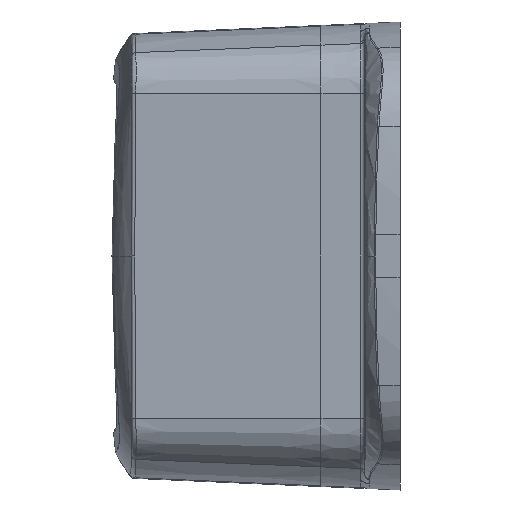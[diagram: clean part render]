
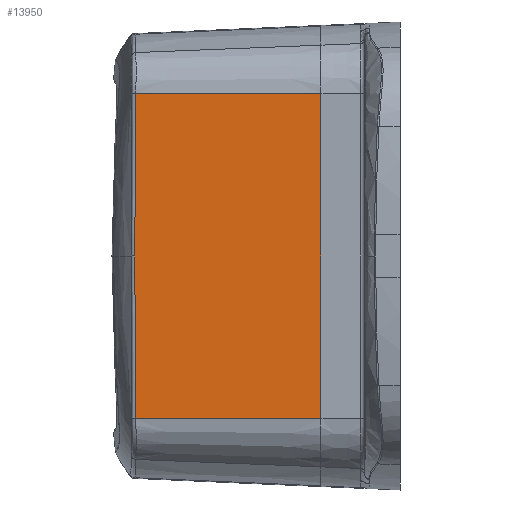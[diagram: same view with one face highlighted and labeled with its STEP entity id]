
A CAD part, left-side view. The second image highlights one B-rep face of the part: STEP entity #13950.
In plain terms, the highlighted planar face has unit normal (-0.999, 0.044, 0).
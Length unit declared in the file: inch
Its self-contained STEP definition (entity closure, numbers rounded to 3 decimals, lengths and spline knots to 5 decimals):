
#124 = VECTOR ( 'NONE', #23147, 39.37008 ) ;
#295 = CARTESIAN_POINT ( 'NONE',  ( -1.26638, 1.05627, -0.77062 ) ) ;
#3566 = DIRECTION ( 'NONE',  ( -0.999, 0.044, 0. ) ) ;
#4493 = CARTESIAN_POINT ( 'NONE',  ( -1.26623, 1.05976, 0.30826 ) ) ;
#4806 = CARTESIAN_POINT ( 'NONE',  ( -1.26643, 1.05528, 0.85732 ) ) ;
#6927 = LINE ( 'NONE', #89177, #124 ) ;
#7915 = CARTESIAN_POINT ( 'NONE',  ( -1.26621, 1.06011, -0.15413 ) ) ;
#9294 = DIRECTION ( 'NONE',  ( -0.044, -0.999, 0. ) ) ;
#12089 = CARTESIAN_POINT ( 'NONE',  ( -1.26641, 1.05562, 0.82842 ) ) ;
#13950 = ADVANCED_FACE ( 'NONE', ( #74717 ), #61634, .T. ) ;
#14887 = CARTESIAN_POINT ( 'NONE',  ( -1.26629, 1.05836, -0.53944 ) ) ;
#15086 = VERTEX_POINT ( 'NONE', #87885 ) ;
#15198 = CARTESIAN_POINT ( 'NONE',  ( -1.26644, 1.05492, -0.88621 ) ) ;
#17820 = VERTEX_POINT ( 'NONE', #88177 ) ;
#18747 = CARTESIAN_POINT ( 'NONE',  ( -1.26636, 1.05667, 0.73209 ) ) ;
#22159 = CARTESIAN_POINT ( 'NONE',  ( -1.26636, 1.05667, -0.73209 ) ) ;
#23147 = DIRECTION ( 'NONE',  ( -0.044, -0.999, 0. ) ) ;
#24186 = CARTESIAN_POINT ( 'NONE',  ( -1.3125, 0., -0.92474 ) ) ;
#26040 = VERTEX_POINT ( 'NONE', #57746 ) ;
#26044 = CARTESIAN_POINT ( 'NONE',  ( -1.26629, 1.05836, 0.53944 ) ) ;
#26648 = CARTESIAN_POINT ( 'NONE',  ( -1.26638, 1.05627, 0.77062 ) ) ;
#26661 = ORIENTED_EDGE ( 'NONE', *, *, #85090, .T. ) ;
#28301 = VERTEX_POINT ( 'NONE', #92916 ) ;
#28545 = CARTESIAN_POINT ( 'NONE',  ( -1.26621, 1.06012, 0. ) ) ;
#28816 = CARTESIAN_POINT ( 'NONE',  ( -1.26645, 1.05467, -0.90548 ) ) ;
#29454 = CARTESIAN_POINT ( 'NONE',  ( -1.26632, 1.05777, -0.6165 ) ) ;
#30062 = CARTESIAN_POINT ( 'NONE',  ( -1.26623, 1.05976, -0.30826 ) ) ;
#32392 = DIRECTION ( 'NONE',  ( -0.044, -0.999, 0. ) ) ;
#32712 = CARTESIAN_POINT ( 'NONE',  ( -1.3125, 0., -0.92474 ) ) ;
#32926 = DIRECTION ( 'NONE',  ( 0., 0., 1. ) ) ;
#34003 = ORIENTED_EDGE ( 'NONE', *, *, #85624, .T. ) ;
#35859 = CARTESIAN_POINT ( 'NONE',  ( -1.26621, 1.06011, 0.15413 ) ) ;
#40217 = ORIENTED_EDGE ( 'NONE', *, *, #90779, .T. ) ;
#43309 = EDGE_CURVE ( 'NONE', #26040, #28301, #90903, .T. ) ;
#48295 = CARTESIAN_POINT ( 'NONE',  ( -1.26645, 1.05464, 0.91511 ) ) ;
#49248 = CARTESIAN_POINT ( 'NONE',  ( -1.26645, 1.05467, 0.90548 ) ) ;
#49315 = AXIS2_PLACEMENT_3D ( 'NONE', #32712, #3566, #32392 ) ;
#50491 = CARTESIAN_POINT ( 'NONE',  ( -1.26647, 1.05432, -0.92474 ) ) ;
#50806 = CARTESIAN_POINT ( 'NONE',  ( -1.26642, 1.05539, -0.84768 ) ) ;
#52344 = EDGE_LOOP ( 'NONE', ( #34003, #82570, #26661, #40217, #73718 ) ) ;
#54954 = CARTESIAN_POINT ( 'NONE',  ( -1.26644, 1.05492, 0.88621 ) ) ;
#57746 = CARTESIAN_POINT ( 'NONE',  ( -1.26621, 1.06012, 0. ) ) ;
#58075 = CARTESIAN_POINT ( 'NONE',  ( -1.26641, 1.05562, -0.82842 ) ) ;
#59015 = CARTESIAN_POINT ( 'NONE',  ( -1.26645, 1.05464, -0.91511 ) ) ;
#61634 = PLANE ( 'NONE',  #49315 ) ;
#62375 = LINE ( 'NONE', #24186, #89652 ) ;
#65675 = CARTESIAN_POINT ( 'NONE',  ( -1.26621, 1.06012, 0. ) ) ;
#68152 = VERTEX_POINT ( 'NONE', #80855 ) ;
#68519 = CARTESIAN_POINT ( 'NONE',  ( -1.3125, 0., -0.92474 ) ) ;
#73718 = ORIENTED_EDGE ( 'NONE', *, *, #93422, .F. ) ;
#74717 = FACE_OUTER_BOUND ( 'NONE', #52344, .T. ) ;
#79596 = B_SPLINE_CURVE_WITH_KNOTS ( 'NONE', 3,
 ( #92702, #48295, #49248, #54954, #4806, #12089, #26648, #18747, #91469, #26044, #4493, #35859, #28545 ),
 .UNSPECIFIED., .F., .F.,
 ( 4, 2, 1, 2, 2, 2, 4 ),
 ( 0., 0.00073, 0.00147, 0.00294, 0.00587, 0.01174, 0.02349 ),
 .UNSPECIFIED. ) ;
#80855 = CARTESIAN_POINT ( 'NONE',  ( -1.26647, 1.05432, 0.92474 ) ) ;
#82570 = ORIENTED_EDGE ( 'NONE', *, *, #43309, .T. ) ;
#85090 = EDGE_CURVE ( 'NONE', #28301, #17820, #62375, .T. ) ;
#85624 = EDGE_CURVE ( 'NONE', #68152, #26040, #79596, .T. ) ;
#86844 = VECTOR ( 'NONE', #32926, 39.37008 ) ;
#87628 = CARTESIAN_POINT ( 'NONE',  ( -1.26644, 1.05504, -0.87658 ) ) ;
#87885 = CARTESIAN_POINT ( 'NONE',  ( -1.3125, 0., 0.92474 ) ) ;
#88177 = CARTESIAN_POINT ( 'NONE',  ( -1.3125, 0., -0.92474 ) ) ;
#89177 = CARTESIAN_POINT ( 'NONE',  ( -1.3125, 0., 0.92474 ) ) ;
#89652 = VECTOR ( 'NONE', #9294, 39.37008 ) ;
#90198 = LINE ( 'NONE', #68519, #86844 ) ;
#90779 = EDGE_CURVE ( 'NONE', #17820, #15086, #90198, .T. ) ;
#90903 = B_SPLINE_CURVE_WITH_KNOTS ( 'NONE', 3,
 ( #65675, #7915, #30062, #14887, #29454, #22159, #295, #58075, #50806, #87628, #15198, #28816, #59015, #50491 ),
 .UNSPECIFIED., .F., .F.,
 ( 4, 2, 2, 2, 2, 2, 4 ),
 ( 0., 0.01174, 0.01762, 0.02055, 0.02202, 0.02276, 0.02349 ),
 .UNSPECIFIED. ) ;
#91469 = CARTESIAN_POINT ( 'NONE',  ( -1.26632, 1.05777, 0.6165 ) ) ;
#92702 = CARTESIAN_POINT ( 'NONE',  ( -1.26647, 1.05432, 0.92474 ) ) ;
#92916 = CARTESIAN_POINT ( 'NONE',  ( -1.26647, 1.05432, -0.92474 ) ) ;
#93422 = EDGE_CURVE ( 'NONE', #68152, #15086, #6927, .T. ) ;
